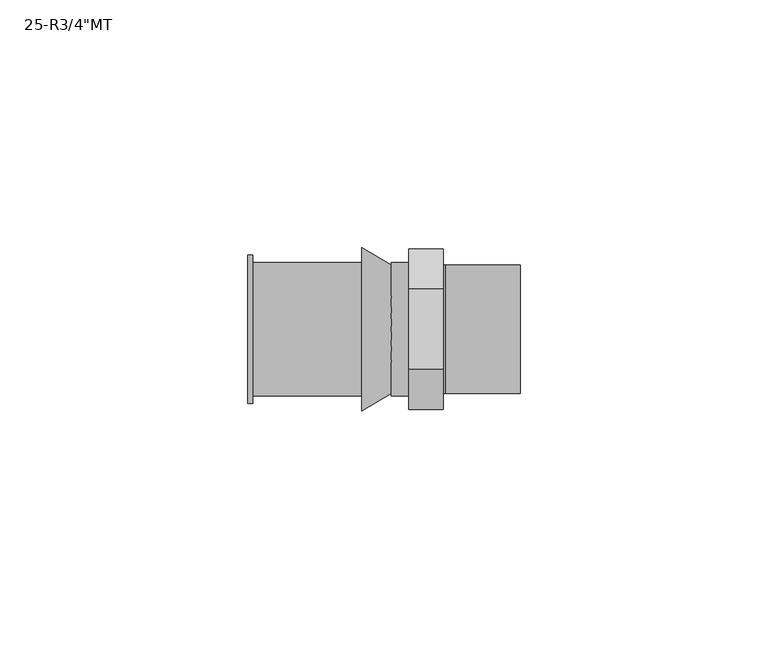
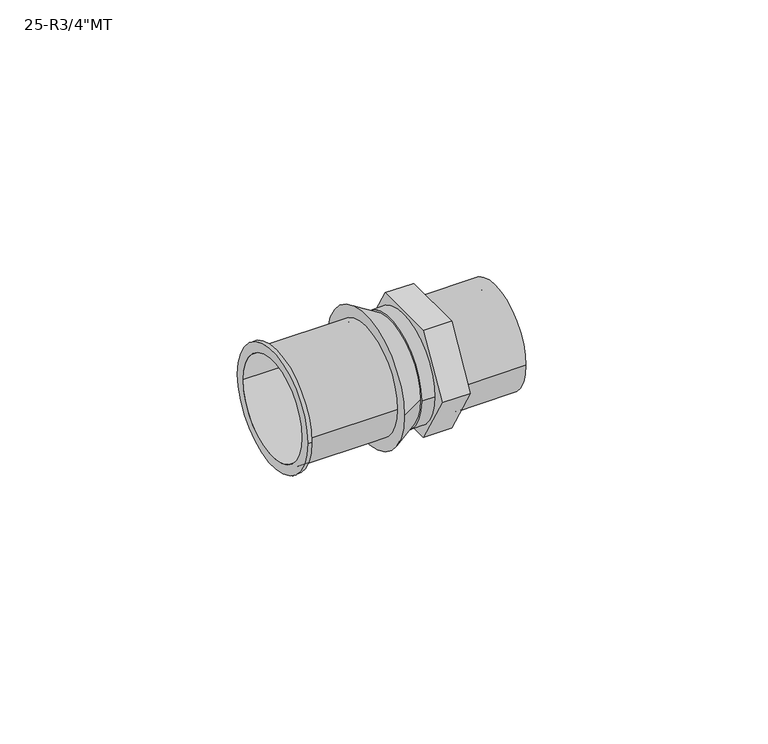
"""IFC4 building model written with IfcOpenShell, lengths in millimetres: pipe fitting geometry."""

from ifc_helpers import new_model, si_unit, point, frame, origin, origin_2d, place, context, project, spatial, polyline, circle_curve, trimmed, segment, composite_curve, outline, extrude, source, transform, mapped, element, save
from ifc_brep_helpers import plane_surface, cylinder_surface, revolved_surface, advanced_brep


def pipe_fitting_d1e6d692(model_context):
    return source(origin(), model_context, "Body", "SolidModel", [
        advanced_brep(
        [(-3.5, -16.1658075, 0.0), (-3.5, -8.0829038, 14.0), (-3.5, 8.0829038, 14.0), (-3.5, 16.1658075, 0.0), (-3.5, 8.0829038, -14.0), (-3.5, -8.0829038, -14.0), (3.5, -16.1658075, 0.0), (3.5, -8.0829038, -14.0), (3.5, 8.0829038, -14.0), (3.5, 16.1658075, 0.0), (3.5, 8.0829038, 14.0), (3.5, -8.0829038, 14.0), (3.5, -13.0, 0.0), (3.5, 13.0, 0.0), (19.0, -13.0, 0.0), (19.0, 13.0, 0.0), (19.0, -10.0, 0.0), (19.0, 10.0, 0.0), (4.0, 13.0, 0.0), (4.0, -13.0, 0.0), (4.0, 10.0, 0.0), (4.0, -10.0, 0.0)],
        [
            (0, 1),
            (1, 2),
            (2, 3),
            (3, 4),
            (4, 5),
            (5, 0),
            (6, 7),
            (7, 8),
            (8, 9),
            (9, 10),
            (10, 11),
            (11, 6),
            (12, 13, circle_curve(frame((3.5, 0.0, 0.0), z_axis=(-1.0, 0.0, 0.0), x_axis=(0.0, 1.0, 0.0)), 13.0)),
            (13, 12, circle_curve(frame((3.5, 0.0, 0.0), z_axis=(-1.0, 0.0, 0.0), x_axis=(0.0, 1.0, 0.0)), 13.0)),
            (0, 6),
            (11, 1),
            (10, 2),
            (9, 3),
            (8, 4),
            (7, 5),
            (14, 15, circle_curve(frame((19.0, 0.0, 0.0), z_axis=(1.0, 0.0, 0.0), x_axis=(0.0, 1.0, 0.0)), 13.0)),
            (15, 14, circle_curve(frame((19.0, 0.0, 0.0), z_axis=(1.0, 0.0, 0.0), x_axis=(0.0, 1.0, 0.0)), 13.0)),
            (16, 17, circle_curve(frame((19.0, 0.0, 0.0), z_axis=(-1.0, 0.0, 0.0), x_axis=(0.0, 1.0, 0.0)), 10.0)),
            (17, 16, circle_curve(frame((19.0, 0.0, 0.0), z_axis=(-1.0, 0.0, 0.0), x_axis=(0.0, 1.0, 0.0)), 10.0)),
            (15, 18),
            (18, 19, circle_curve(frame((4.0, 0.0, 0.0), z_axis=(1.0, 0.0, 0.0), x_axis=(0.0, 1.0, 0.0)), 13.0)),
            (19, 14),
            (19, 18, circle_curve(frame((4.0, 0.0, 0.0), z_axis=(1.0, 0.0, 0.0), x_axis=(0.0, 1.0, 0.0)), 13.0)),
            (17, 20),
            (20, 21, circle_curve(frame((4.0, 0.0, 0.0), z_axis=(-1.0, 0.0, 0.0), x_axis=(0.0, 1.0, 0.0)), 10.0)),
            (21, 16),
            (21, 20, circle_curve(frame((4.0, 0.0, 0.0), z_axis=(-1.0, 0.0, 0.0), x_axis=(0.0, 1.0, 0.0)), 10.0)),
            (12, 19),
            (18, 13),
        ],
        [
            plane_surface(frame((-3.5, 0.0, 0.0), z_axis=(-1.0, 0.0, 0.0), x_axis=(0.0, 0.0, 1.0))),
            plane_surface(frame((3.5, 0.0, 0.0), z_axis=(1.0, 0.0, 0.0), x_axis=(0.0, 0.0, 1.0))),
            plane_surface(frame((-3.5, -16.1658075, 0.0), z_axis=(0.0, -0.8660254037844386, 0.5000000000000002), x_axis=(1.0, 0.0, 0.0))),
            plane_surface(frame((-3.5, -8.0829038, 14.0), z_axis=(0.0, 0.0, 1.0), x_axis=(1.0, 0.0, 0.0))),
            plane_surface(frame((-3.5, 8.0829038, 14.0), z_axis=(0.0, 0.8660254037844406, 0.49999999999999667), x_axis=(1.0, 0.0, 0.0))),
            plane_surface(frame((-3.5, 16.1658075, 0.0), z_axis=(0.0, 0.8660254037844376, -0.500000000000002), x_axis=(1.0, 0.0, 0.0))),
            plane_surface(frame((-3.5, 8.0829038, -14.0), z_axis=(0.0, 0.0, -1.0), x_axis=(1.0, 0.0, 0.0))),
            plane_surface(frame((-3.5, -8.0829038, -14.0), z_axis=(0.0, -0.8660254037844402, -0.49999999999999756), x_axis=(1.0, 0.0, 0.0))),
            plane_surface(frame((19.0, 0.0, 0.0), z_axis=(1.0, 0.0, 0.0), x_axis=(0.0, 0.0, 1.0))),
            cylinder_surface(frame((4.0, 0.0, 0.0), z_axis=(-1.0, 0.0, 0.0), x_axis=(0.0, 1.0, 0.0)), 13.0),
            revolved_surface(polyline([(19.0, 10.0, 0.0), (4.0, 10.0, 0.0)]), (4.0, 0.0, 0.0), (1.0, 0.0, 0.0)),
            plane_surface(frame((4.0, 0.0, 0.0), z_axis=(1.0, 0.0, 0.0), x_axis=(0.0, 0.0, 1.0))),
            cylinder_surface(frame((0.0, 0.0, 0.0), z_axis=(-1.0, 0.0, 0.0), x_axis=(0.0, 1.0, 0.0)), 13.0),
        ],
        [
            (0, [[1, 2, 3, 4, 5, 6]]),
            (1, [[7, 8, 9, 10, 11, 12], [13, 14]]),
            (2, [[-1, 15, -12, 16]]),
            (3, [[-2, -16, -11, 17]]),
            (4, [[-3, -17, -10, 18]]),
            (5, [[-4, -18, -9, 19]]),
            (6, [[-5, -19, -8, 20]]),
            (7, [[-6, -20, -7, -15]]),
            (8, [[21, 22], [23, 24]]),
            (9, [[-22, 25, 26, 27]]),
            (9, [[-21, -27, 28, -25]]),
            (10, [[-24, 29, 30, 31]]),
            (10, [[-23, -31, 32, -29]]),
            (11, [[-30, -32]]),
            (12, [[33, -26, 34, -13]]),
            (12, [[-33, -14, -34, -28]]),
        ],
    ),
        advanced_brep(
        [(-36.0, -15.0, 0.0), (-36.0, 15.0, 0.0), (-36.0, -12.5, 0.0), (-36.0, 12.5, 0.0), (-13.0, -13.5, 0.0), (-13.0, 13.5, 0.0), (-13.0, -12.5, 0.0), (-13.0, 12.5, 0.0), (-35.0, 13.5, 0.0), (-35.0, -13.5, 0.0), (-35.0, -15.0, 0.0), (-35.0, 15.0, 0.0)],
        [
            (0, 1, circle_curve(frame((-36.0, 0.0, 0.0), z_axis=(-1.0, 0.0, 0.0), x_axis=(0.0, 1.0, 0.0)), 15.0)),
            (1, 0, circle_curve(frame((-36.0, 0.0, 0.0), z_axis=(-1.0, 0.0, 0.0), x_axis=(0.0, 1.0, 0.0)), 15.0)),
            (2, 3, circle_curve(frame((-36.0, 0.0, 0.0), z_axis=(1.0, 0.0, 0.0), x_axis=(0.0, 1.0, 0.0)), 12.5)),
            (3, 2, circle_curve(frame((-36.0, 0.0, 0.0), z_axis=(1.0, 0.0, 0.0), x_axis=(0.0, 1.0, 0.0)), 12.5)),
            (4, 5, circle_curve(frame((-13.0, 0.0, 0.0), z_axis=(1.0, 0.0, 0.0), x_axis=(0.0, 1.0, 0.0)), 13.5)),
            (5, 4, circle_curve(frame((-13.0, 0.0, 0.0), z_axis=(1.0, 0.0, 0.0), x_axis=(0.0, 1.0, 0.0)), 13.5)),
            (6, 7, circle_curve(frame((-13.0, 0.0, 0.0), z_axis=(-1.0, 0.0, 0.0), x_axis=(0.0, 1.0, 0.0)), 12.5)),
            (7, 6, circle_curve(frame((-13.0, 0.0, 0.0), z_axis=(-1.0, 0.0, 0.0), x_axis=(0.0, 1.0, 0.0)), 12.5)),
            (2, 6),
            (7, 3),
            (5, 8),
            (8, 9, circle_curve(frame((-35.0, 0.0, 0.0), z_axis=(1.0, 0.0, 0.0), x_axis=(0.0, 1.0, 0.0)), 13.5)),
            (9, 4),
            (9, 8, circle_curve(frame((-35.0, 0.0, 0.0), z_axis=(1.0, 0.0, 0.0), x_axis=(0.0, 1.0, 0.0)), 13.5)),
            (10, 11, circle_curve(frame((-35.0, 0.0, 0.0), z_axis=(1.0, 0.0, 0.0), x_axis=(0.0, 1.0, 0.0)), 15.0)),
            (11, 10, circle_curve(frame((-35.0, 0.0, 0.0), z_axis=(1.0, 0.0, 0.0), x_axis=(0.0, 1.0, 0.0)), 15.0)),
            (0, 10),
            (11, 1),
        ],
        [
            plane_surface(frame((-36.0, 0.0, 0.0), z_axis=(-1.0, 0.0, 0.0), x_axis=(0.0, 0.0, 1.0))),
            plane_surface(frame((-13.0, 0.0, 0.0), z_axis=(1.0, 0.0, 0.0), x_axis=(0.0, 0.0, 1.0))),
            revolved_surface(polyline([(-13.0, 12.5, 0.0), (-36.0, 12.5, 0.0)]), (-36.0, 0.0, 0.0), (1.0, 0.0, 0.0)),
            cylinder_surface(frame((-36.0, 0.0, 0.0), z_axis=(-1.0, 0.0, 0.0), x_axis=(0.0, 1.0, 0.0)), 13.5),
            plane_surface(frame((-35.0, 0.0, 0.0), z_axis=(1.0, 0.0, 0.0), x_axis=(0.0, 0.0, 1.0))),
            cylinder_surface(frame((-36.0, 0.0, 0.0), z_axis=(-1.0, 0.0, 0.0), x_axis=(0.0, 1.0, 0.0)), 15.0),
        ],
        [
            (0, [[1, 2], [3, 4]]),
            (1, [[5, 6], [7, 8]]),
            (2, [[-3, 9, -8, 10]]),
            (2, [[-4, -10, -7, -9]]),
            (3, [[-6, 11, 12, 13]]),
            (3, [[-5, -13, 14, -11]]),
            (4, [[15, 16], [-12, -14]]),
            (5, [[-1, 17, -16, 18]]),
            (5, [[-2, -18, -15, -17]]),
        ],
    ),
        advanced_brep(
        [(-7.0, -13.0, 0.0), (-7.0, 13.0, 0.0), (-7.0, 12.5, 0.0), (-7.0, -12.5, 0.0), (-13.0, -16.5, 0.0), (-13.0, 16.5, 0.0), (-13.0, -12.5, 0.0), (-13.0, 12.5, 0.0)],
        [
            (0, 1, circle_curve(frame((-7.0, 0.0, 0.0), z_axis=(1.0, 0.0, 0.0), x_axis=(0.0, -1.0, 0.0)), 13.0)),
            (1, 0, circle_curve(frame((-7.0, 0.0, 0.0), z_axis=(1.0, 0.0, 0.0), x_axis=(0.0, 1.0, 0.0)), 13.0)),
            (2, 3, circle_curve(frame((-7.0, 0.0, 0.0), z_axis=(-1.0, 0.0, 0.0), x_axis=(0.0, 1.0, 0.0)), 12.5)),
            (3, 2, circle_curve(frame((-7.0, 0.0, 0.0), z_axis=(-1.0, 0.0, 0.0), x_axis=(0.0, 1.0, 0.0)), 12.5)),
            (4, 5, circle_curve(frame((-13.0, 0.0, 0.0), z_axis=(-1.0, 0.0, 0.0), x_axis=(0.0, 1.0, 0.0)), 16.5)),
            (5, 4, circle_curve(frame((-13.0, 0.0, 0.0), z_axis=(-1.0, 0.0, 0.0), x_axis=(0.0, -1.0, 0.0)), 16.5)),
            (6, 7, circle_curve(frame((-13.0, 0.0, 0.0), z_axis=(1.0, 0.0, 0.0), x_axis=(0.0, 1.0, 0.0)), 12.5)),
            (7, 6, circle_curve(frame((-13.0, 0.0, 0.0), z_axis=(1.0, 0.0, 0.0), x_axis=(0.0, 1.0, 0.0)), 12.5)),
            (0, 4),
            (5, 1),
            (2, 7),
            (6, 3),
        ],
        [
            plane_surface(frame((-7.0, 0.0, 0.0), z_axis=(1.0, 0.0, 0.0), x_axis=(0.0, 0.0, -1.0))),
            plane_surface(frame((-13.0, 0.0, 0.0), z_axis=(-1.0, 0.0, 0.0), x_axis=(0.0, 0.0, -1.0))),
            revolved_surface(polyline([(-7.000000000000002, -13.000000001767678, 0.0), (-13.000000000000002, -16.5, 0.0)]), (15.2857143, 0.0, 0.0), (-1.0, 0.0, 0.0)),
            revolved_surface(polyline([(-7.000000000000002, 13.000000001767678, 0.0), (-13.000000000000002, 16.5, 0.0)]), (15.2857143, 0.0, 0.0), (-1.0, 0.0, 0.0)),
            revolved_surface(polyline([(-7.0, 12.5, 0.0), (-13.0, 12.5, 0.0)]), (-13.0, 0.0, 0.0), (1.0, 0.0, 0.0)),
        ],
        [
            (0, [[1, 2], [3, 4]]),
            (1, [[5, 6], [7, 8]]),
            (2, [[-1, 9, -6, 10]]),
            (3, [[-2, -10, -5, -9]]),
            (4, [[11, -7, 12, -3]]),
            (4, [[-11, -4, -12, -8]]),
        ],
    ),
        extrude(outline(composite_curve([segment(trimmed(circle_curve(origin_2d(), 13.5), [point((-13.5, 0.0))], [point((13.5, 0.0))], False, "CARTESIAN"), True, "CONTINUOUS"), segment(trimmed(circle_curve(origin_2d(), 13.5), [point((13.5, 0.0))], [point((-13.5, 0.0))], False, "CARTESIAN"), True, "CONTINUOUS")], self_intersect=False)), frame((-7.0, 0.0, 0.0), z_axis=(1.0, 0.0, 0.0), x_axis=(0.0, 1.0, 0.0)), (0.0, 0.0, 1.0), 3.5),
    ])


if __name__ == "__main__":
    model = new_model("IFC4")
    model_context = context("Model", 3, world=origin())
    ifc_project = project(units=[si_unit("LENGTHUNIT", "METRE", prefix="MILLI")], contexts=[model_context])
    site = spatial("IfcSite", under=ifc_project)
    building = spatial("IfcBuilding", under=site)
    placement = place(None, origin())
    pipe_fitting_shape = pipe_fitting_d1e6d692(model_context)
    element("IfcPipeFitting", 1, ObjectType="SuperPipe_AdapterMT : 25-R3/4\"MT", at=placement, inside=building, context=model_context, shape_type="MappedRepresentation", body=[
        mapped(pipe_fitting_shape, transform((0.0, 0.0, 0.0), x_axis=(1.0, 0.0, 0.0), y_axis=(0.0, 1.0, 0.0), z_axis=(0.0, 0.0, 1.0))),
    ])
    save(model, "model.ifc")
